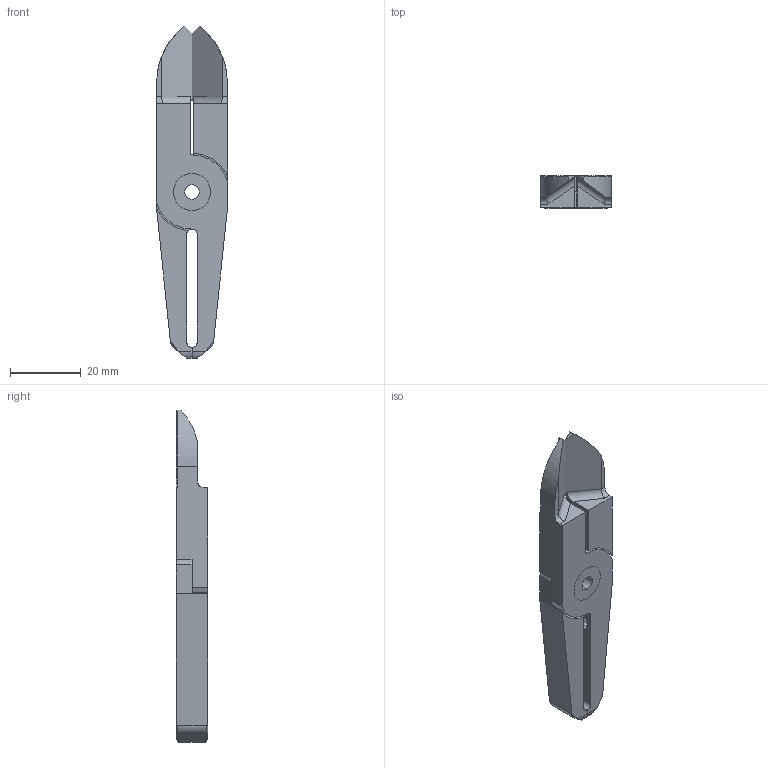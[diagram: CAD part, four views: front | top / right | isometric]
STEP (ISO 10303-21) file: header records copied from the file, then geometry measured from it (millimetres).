
FILE_DESCRIPTION (( 'STEP AP214' ), '1' );
FILE_NAME ('NT10AJL.STEP', '2019-11-28T09:13:25', ( '微软用户' ), ( '微软中国' ), 'SwSTEP 2.0', 'SolidWorks 2016', '' );
FILE_SCHEMA (( 'AUTOMOTIVE_DESIGN' ));
Length unit declared in the file: millimetre
Products named in the file (4): BR2; BR1; BS; NT10AJL
Assembly tree (3 placements, depth 2):
  NT10AJL
    BS
    BR1
    BR2
Bounding box: 20 x 9 x 94 mm (x, y, z)
Volume: 10808 mm3; surface area: 7414.1 mm2
Topology: 3 solids, 3 shells, 102 faces, 270 edges, 172 vertices
Faces by surface type: plane 44, cylinder 30, cone 16, bspline 12
Entity records: 3358 total; most frequent: CARTESIAN_POINT 752, ORIENTED_EDGE 532, DIRECTION 500, EDGE_CURVE 266, VERTEX_POINT 172, AXIS2_PLACEMENT_3D 168, VECTOR 164, LINE 164
